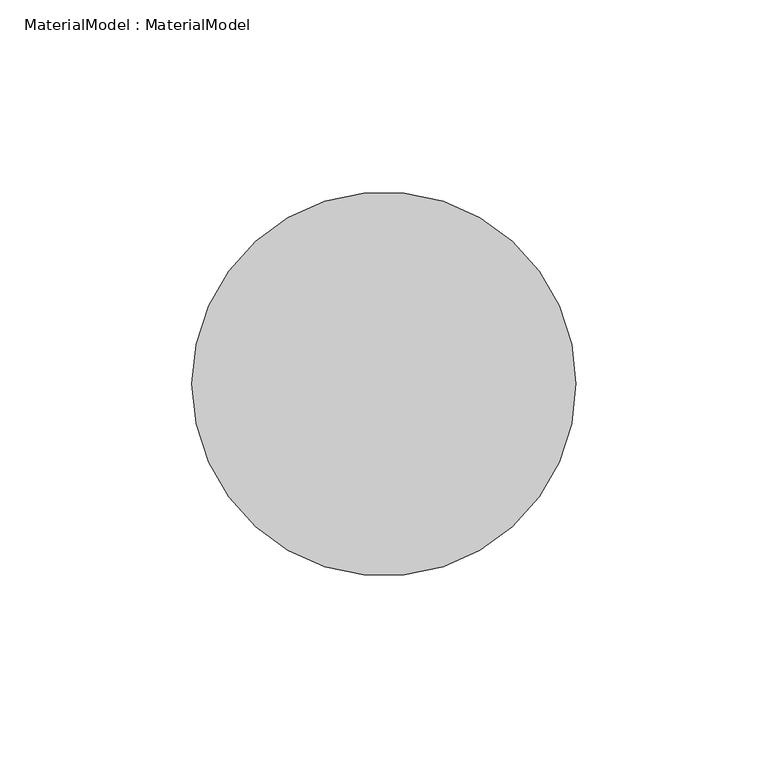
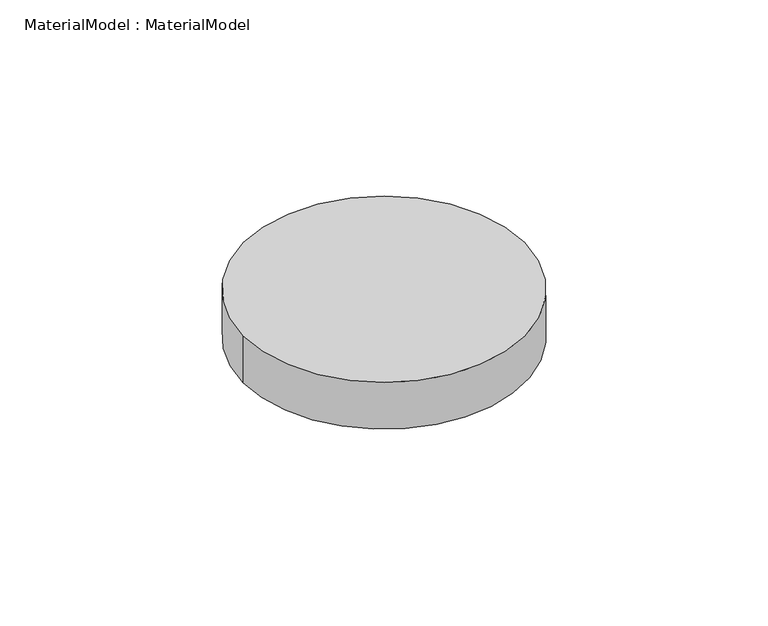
"""IFC4 building model written with IfcOpenShell, lengths in millimetres: proxy geometry, MaterialModel : MaterialModel."""

from ifc_helpers import new_model, si_unit, point, origin, origin_with_axes, origin_2d, place, context, project, spatial, circle_curve, trimmed, segment, composite_curve, outline, extrude, source, transform, mapped, element, save


def materialmodel_materialmodel_f4343cda(model_context):
    return source(origin(), model_context, "Body", "SweptSolid", [
        extrude(outline(composite_curve([segment(trimmed(circle_curve(origin_2d(), 50.0), [point((-50.0, 0.0))], [point((50.0, 0.0))], False, "CARTESIAN"), True, "CONTINUOUS"), segment(trimmed(circle_curve(origin_2d(), 50.0), [point((50.0, 0.0))], [point((-50.0, 0.0))], False, "CARTESIAN"), True, "CONTINUOUS")], self_intersect=False)), origin_with_axes(), (0.0, 0.0, 1.0), 17.7180755),
    ])


if __name__ == "__main__":
    model = new_model("IFC4")
    model_context = context("Model", 3, world=origin())
    ifc_project = project(units=[si_unit("LENGTHUNIT", "METRE", prefix="MILLI")], contexts=[model_context])
    site = spatial("IfcSite", under=ifc_project)
    building = spatial("IfcBuilding", under=site)
    placement = place(None, origin())
    materialmodel_materialmodel_shape = materialmodel_materialmodel_f4343cda(model_context)
    element("IfcBuildingElementProxy", 1, Name="MaterialModel : MaterialModel", ObjectType="MaterialModel : MaterialModel", at=placement, inside=building, context=model_context, shape_type="MappedRepresentation", body=[
        mapped(materialmodel_materialmodel_shape, transform((0.0, 0.0, 0.0), x_axis=(1.0, 0.0, 0.0), y_axis=(0.0, 1.0, 0.0), z_axis=(0.0, 0.0, 1.0))),
    ])
    save(model, "model.ifc")
